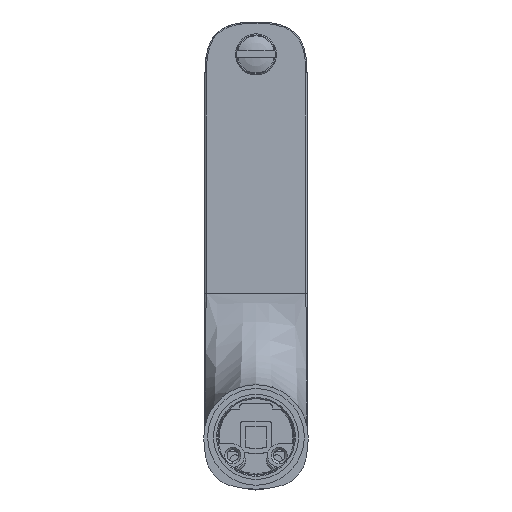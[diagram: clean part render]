
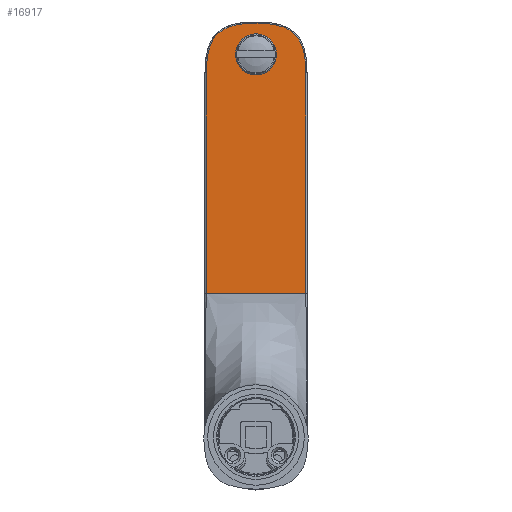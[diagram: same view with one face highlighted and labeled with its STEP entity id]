
A CAD part, front view. The second image highlights one B-rep face of the part: STEP entity #16917.
In plain terms, the highlighted planar face has unit normal (0, -1, 0).
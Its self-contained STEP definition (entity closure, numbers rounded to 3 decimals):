
#4511=DIRECTION('',(-1.,0.,0.));
#4512=VECTOR('',#4511,43.);
#4513=CARTESIAN_POINT('',(21.5,105.,70.));
#4514=LINE('',#4513,#4512);
#4515=CARTESIAN_POINT('',(21.5,105.,70.));
#4613=DIRECTION('',(0.,0.,-1.));
#4614=VECTOR('',#4613,95.);
#4615=CARTESIAN_POINT('',(21.5,105.,165.));
#4616=LINE('',#4615,#4614);
#4617=DIRECTION('',(0.,0.,1.));
#4618=VECTOR('',#4617,95.);
#4619=CARTESIAN_POINT('',(-21.5,105.,70.));
#4620=LINE('',#4619,#4618);
#4621=CARTESIAN_POINT('',(-21.5,105.,165.));
#4622=CARTESIAN_POINT('',(-21.5,105.,165.587));
#4623=CARTESIAN_POINT('',(-21.484,105.,166.7));
#4624=CARTESIAN_POINT('',(-21.422,105.,168.167));
#4625=CARTESIAN_POINT('',(-21.327,105.,169.491));
#4626=CARTESIAN_POINT('',(-21.204,105.,170.69));
#4627=CARTESIAN_POINT('',(-21.059,105.,171.778));
#4628=CARTESIAN_POINT('',(-20.894,105.,172.767));
#4629=CARTESIAN_POINT('',(-20.712,105.,173.67));
#4630=CARTESIAN_POINT('',(-20.516,105.,174.501));
#4631=CARTESIAN_POINT('',(-20.305,105.,175.269));
#4632=CARTESIAN_POINT('',(-20.083,105.,175.98));
#4633=CARTESIAN_POINT('',(-19.85,105.,176.641));
#4634=CARTESIAN_POINT('',(-19.607,105.,177.256));
#4635=CARTESIAN_POINT('',(-19.354,105.,177.832));
#4636=CARTESIAN_POINT('',(-19.09,105.,178.373));
#4637=CARTESIAN_POINT('',(-18.818,105.,178.882));
#4638=CARTESIAN_POINT('',(-18.535,105.,179.362));
#4639=CARTESIAN_POINT('',(-18.243,105.,179.817));
#4640=CARTESIAN_POINT('',(-17.94,105.,180.249));
#4641=CARTESIAN_POINT('',(-17.627,105.,180.66));
#4642=CARTESIAN_POINT('',(-17.301,105.,181.052));
#4643=CARTESIAN_POINT('',(-16.963,105.,181.426));
#4644=CARTESIAN_POINT('',(-16.611,105.,181.786));
#4645=CARTESIAN_POINT('',(-16.244,105.,182.131));
#4646=CARTESIAN_POINT('',(-15.862,105.,182.462));
#4647=CARTESIAN_POINT('',(-15.461,105.,182.782));
#4648=CARTESIAN_POINT('',(-15.04,105.,183.09));
#4649=CARTESIAN_POINT('',(-14.597,105.,183.388));
#4650=CARTESIAN_POINT('',(-14.129,105.,183.675));
#4651=CARTESIAN_POINT('',(-13.634,105.,183.954));
#4652=CARTESIAN_POINT('',(-13.109,105.,184.222));
#4653=CARTESIAN_POINT('',(-12.552,105.,184.48));
#4654=CARTESIAN_POINT('',(-11.959,105.,184.728));
#4655=CARTESIAN_POINT('',(-11.323,105.,184.966));
#4656=CARTESIAN_POINT('',(-10.638,105.,185.194));
#4657=CARTESIAN_POINT('',(-9.899,105.,185.41));
#4658=CARTESIAN_POINT('',(-9.099,105.,185.615));
#4659=CARTESIAN_POINT('',(-8.231,105.,185.804));
#4660=CARTESIAN_POINT('',(-7.286,105.,185.978));
#4661=CARTESIAN_POINT('',(-6.253,105.,186.133));
#4662=CARTESIAN_POINT('',(-5.114,105.,186.268));
#4663=CARTESIAN_POINT('',(-3.849,105.,186.378));
#4664=CARTESIAN_POINT('',(-2.448,105.,186.457));
#4665=CARTESIAN_POINT('',(-0.893,105.,186.502));
#4666=CARTESIAN_POINT('',(0.894,105.,186.502));
#4667=CARTESIAN_POINT('',(2.449,105.,186.457));
#4668=CARTESIAN_POINT('',(3.85,105.,186.378));
#4669=CARTESIAN_POINT('',(5.114,105.,186.268));
#4670=CARTESIAN_POINT('',(6.254,105.,186.133));
#4671=CARTESIAN_POINT('',(7.287,105.,185.978));
#4672=CARTESIAN_POINT('',(8.231,105.,185.804));
#4673=CARTESIAN_POINT('',(9.099,105.,185.614));
#4674=CARTESIAN_POINT('',(9.899,105.,185.41));
#4675=CARTESIAN_POINT('',(10.639,105.,185.193));
#4676=CARTESIAN_POINT('',(11.323,105.,184.966));
#4677=CARTESIAN_POINT('',(11.959,105.,184.728));
#4678=CARTESIAN_POINT('',(12.552,105.,184.48));
#4679=CARTESIAN_POINT('',(13.109,105.,184.222));
#4680=CARTESIAN_POINT('',(13.634,105.,183.953));
#4681=CARTESIAN_POINT('',(14.129,105.,183.675));
#4682=CARTESIAN_POINT('',(14.597,105.,183.388));
#4683=CARTESIAN_POINT('',(15.04,105.,183.09));
#4684=CARTESIAN_POINT('',(15.461,105.,182.782));
#4685=CARTESIAN_POINT('',(15.862,105.,182.462));
#4686=CARTESIAN_POINT('',(16.245,105.,182.131));
#4687=CARTESIAN_POINT('',(16.611,105.,181.786));
#4688=CARTESIAN_POINT('',(16.963,105.,181.426));
#4689=CARTESIAN_POINT('',(17.301,105.,181.052));
#4690=CARTESIAN_POINT('',(17.627,105.,180.66));
#4691=CARTESIAN_POINT('',(17.94,105.,180.249));
#4692=CARTESIAN_POINT('',(18.243,105.,179.817));
#4693=CARTESIAN_POINT('',(18.535,105.,179.362));
#4694=CARTESIAN_POINT('',(18.818,105.,178.882));
#4695=CARTESIAN_POINT('',(19.09,105.,178.373));
#4696=CARTESIAN_POINT('',(19.354,105.,177.832));
#4697=CARTESIAN_POINT('',(19.607,105.,177.256));
#4698=CARTESIAN_POINT('',(19.85,105.,176.641));
#4699=CARTESIAN_POINT('',(20.083,105.,175.98));
#4700=CARTESIAN_POINT('',(20.305,105.,175.269));
#4701=CARTESIAN_POINT('',(20.516,105.,174.501));
#4702=CARTESIAN_POINT('',(20.712,105.,173.67));
#4703=CARTESIAN_POINT('',(20.894,105.,172.767));
#4704=CARTESIAN_POINT('',(21.059,105.,171.778));
#4705=CARTESIAN_POINT('',(21.204,105.,170.69));
#4706=CARTESIAN_POINT('',(21.327,105.,169.491));
#4707=CARTESIAN_POINT('',(21.422,105.,168.167));
#4708=CARTESIAN_POINT('',(21.484,105.,166.7));
#4709=CARTESIAN_POINT('',(21.5,105.,165.587));
#4710=CARTESIAN_POINT('',(21.5,105.,165.));
#8867=CARTESIAN_POINT('',(0.,105.,173.));
#8868=DIRECTION('',(0.,1.,0.));
#8869=DIRECTION('',(0.,0.,-1.));
#8870=AXIS2_PLACEMENT_3D('',#8867,#8868,#8869);
#8886=CARTESIAN_POINT('',(0.,105.,173.));
#8887=DIRECTION('',(0.,-1.,0.));
#8888=DIRECTION('',(0.,0.,-1.));
#8889=AXIS2_PLACEMENT_3D('',#8886,#8887,#8888);
#9051=VERTEX_POINT('',#4515);
#9055=CARTESIAN_POINT('',(21.5,105.,165.));
#9056=VERTEX_POINT('',#9055);
#9061=CARTESIAN_POINT('',(-21.5,105.,70.));
#9062=CARTESIAN_POINT('',(-21.5,105.,165.));
#9063=VERTEX_POINT('',#9061);
#9064=VERTEX_POINT('',#9062);
#9695=CARTESIAN_POINT('',(0.,105.,164.125));
#9696=CARTESIAN_POINT('',(0.,105.,181.875));
#9697=VERTEX_POINT('',#9695);
#9698=VERTEX_POINT('',#9696);
#16899=CARTESIAN_POINT('',(0.,105.,103.501));
#16900=DIRECTION('',(0.,1.,0.));
#16901=DIRECTION('',(0.,0.,1.));
#16902=AXIS2_PLACEMENT_3D('',#16899,#16900,#16901);
#16903=PLANE('',#16902);
#16905=ORIENTED_EDGE('',*,*,#16904,.T.);
#16906=ORIENTED_EDGE('',*,*,#16518,.T.);
#16907=ORIENTED_EDGE('',*,*,#10009,.T.);
#16908=ORIENTED_EDGE('',*,*,#10285,.T.);
#16909=EDGE_LOOP('',(#16905,#16906,#16907,#16908));
#16910=FACE_OUTER_BOUND('',#16909,.F.);
#16912=ORIENTED_EDGE('',*,*,#16911,.F.);
#16914=ORIENTED_EDGE('',*,*,#16913,.T.);
#16915=EDGE_LOOP('',(#16912,#16914));
#16916=FACE_BOUND('',#16915,.F.);
#16917=ADVANCED_FACE('',(#16910,#16916),#16903,.F.);
#4711=B_SPLINE_CURVE_WITH_KNOTS('',3,(#4621,#4622,#4623,#4624,#4625,#4626,#4627,
#4628,#4629,#4630,#4631,#4632,#4633,#4634,#4635,#4636,#4637,#4638,#4639,#4640,
#4641,#4642,#4643,#4644,#4645,#4646,#4647,#4648,#4649,#4650,#4651,#4652,#4653,
#4654,#4655,#4656,#4657,#4658,#4659,#4660,#4661,#4662,#4663,#4664,#4665,#4666,
#4667,#4668,#4669,#4670,#4671,#4672,#4673,#4674,#4675,#4676,#4677,#4678,#4679,
#4680,#4681,#4682,#4683,#4684,#4685,#4686,#4687,#4688,#4689,#4690,#4691,#4692,
#4693,#4694,#4695,#4696,#4697,#4698,#4699,#4700,#4701,#4702,#4703,#4704,#4705,
#4706,#4707,#4708,#4709,#4710),.UNSPECIFIED.,.F.,.F.,(4,1,1,1,1,1,1,1,1,1,1,1,1,
1,1,1,1,1,1,1,1,1,1,1,1,1,1,1,1,1,1,1,1,1,1,1,1,1,1,1,1,1,1,1,1,1,1,1,1,1,1,1,1,
1,1,1,1,1,1,1,1,1,1,1,1,1,1,1,1,1,1,1,1,1,1,1,1,1,1,1,1,1,1,1,1,1,1,4),(0.,
0.011,0.023,0.034,0.046,
0.057,0.069,0.08,0.092,
0.103,0.115,0.126,0.138,
0.149,0.161,0.172,0.184,
0.195,0.207,0.218,0.23,
0.241,0.253,0.264,0.276,
0.287,0.299,0.31,0.322,
0.333,0.345,0.356,0.368,
0.379,0.391,0.402,0.414,
0.425,0.437,0.448,0.46,
0.471,0.483,0.494,0.506,
0.517,0.529,0.54,0.552,
0.563,0.575,0.586,0.598,
0.609,0.621,0.632,0.644,
0.655,0.667,0.678,0.69,
0.701,0.713,0.724,0.736,
0.747,0.759,0.77,0.782,
0.793,0.805,0.816,0.828,
0.839,0.851,0.862,0.874,
0.885,0.897,0.908,0.92,
0.931,0.943,0.954,0.966,
0.977,0.989,1.),.UNSPECIFIED.);
#8871=CIRCLE('',#8870,8.875);
#8890=CIRCLE('',#8889,8.875);
#10009=EDGE_CURVE('',#9063,#9064,#4620,.T.);
#10285=EDGE_CURVE('',#9064,#9056,#4711,.T.);
#16518=EDGE_CURVE('',#9051,#9063,#4514,.T.);
#16904=EDGE_CURVE('',#9056,#9051,#4616,.T.);
#16911=EDGE_CURVE('',#9697,#9698,#8871,.T.);
#16913=EDGE_CURVE('',#9697,#9698,#8890,.T.);
